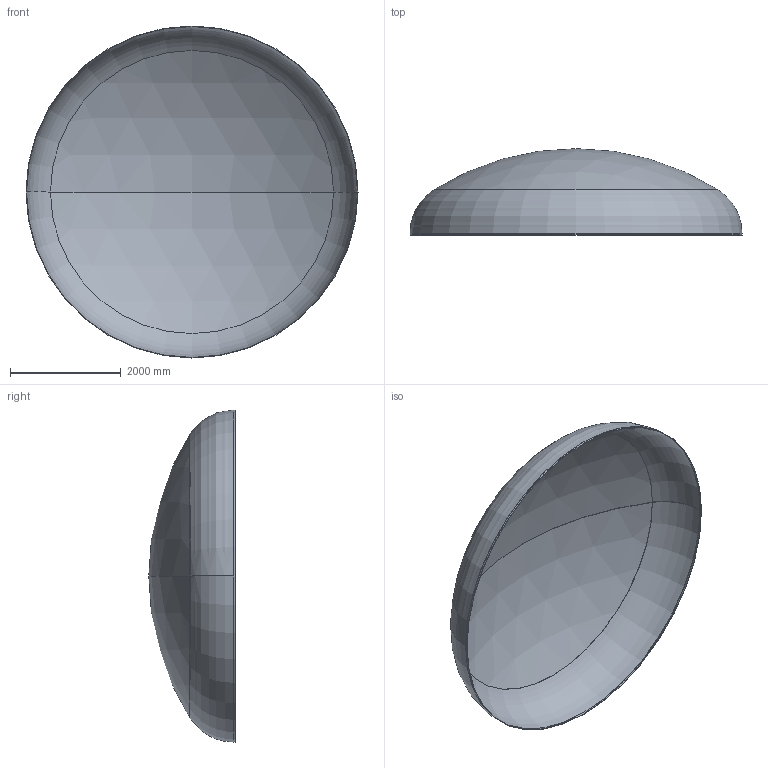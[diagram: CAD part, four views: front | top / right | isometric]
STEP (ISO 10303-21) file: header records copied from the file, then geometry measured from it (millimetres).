
FILE_DESCRIPTION (( 'STEP AP203' ), '1' );
FILE_NAME ('DIN 28013 Korbbogenform_-_Boden DIN 28013 - 6000 x 30 - I - s=9.step', '2016-07-04T10:35:38', ( '' ), ( '' ), 'SwSTEP 2.0', 'SolidWorks 2013', '' );
FILE_SCHEMA (( 'CONFIG_CONTROL_DESIGN' ));
Length unit declared in the file: millimetre
Products named in the file (1): DIN 28013 Korbbogenform_-_Boden DIN 28013 - 6000 x 30 - I - s=9
Bounding box: 6000 x 1560.7 x 6000 mm (x, y, z)
Volume: 356929550.7 mm3; surface area: 79487206.2 mm2
Topology: 1 solids, 1 shells, 13 faces, 24 edges, 14 vertices
Faces by surface type: torus 4, cylinder 4, sphere 4, plane 1
Entity records: 407 total; most frequent: DIRECTION 72, CARTESIAN_POINT 52, ORIENTED_EDGE 48, AXIS2_PLACEMENT_3D 34, EDGE_CURVE 24, CIRCLE 20, EDGE_LOOP 14, VERTEX_POINT 14
